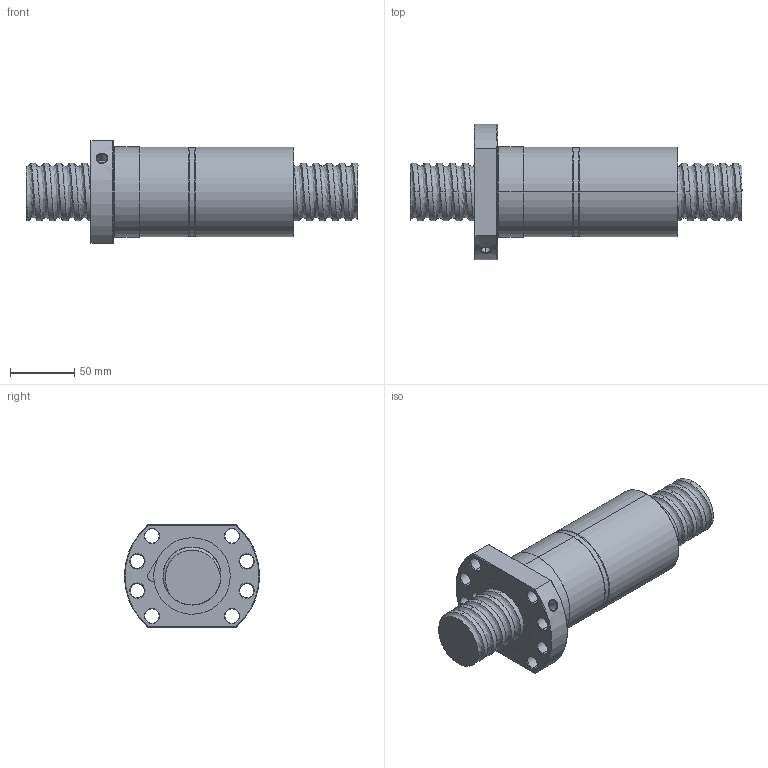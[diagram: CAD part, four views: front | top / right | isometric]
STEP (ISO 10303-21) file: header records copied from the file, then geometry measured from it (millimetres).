
FILE_DESCRIPTION (( 'STEP AP214' ), '1' );
FILE_NAME ('FDDC04510T5-F-C.STEP', '2010-07-07T02:12:18', ( 'XPAUTO' ), ( 'XPAUTO' ), 'SwSTEP 2.0', 'SolidWorks 2007', '' );
FILE_SCHEMA (( 'AUTOMOTIVE_DESIGN' ));
Length unit declared in the file: millimetre
Products named in the file (3): FDDC04510T5-F-C.sldasm-Part-1_預設; FDDC04510T5-F-C; FDDC04510T5-F-C.sldasm-Part-2_預設
Assembly tree (2 placements, depth 2):
  FDDC04510T5-F-C
    FDDC04510T5-F-C.sldasm-Part-2_預設
    FDDC04510T5-F-C.sldasm-Part-1_預設
Bounding box: 258 x 105 x 80 mm (x, y, z)
Volume: 773058.4 mm3; surface area: 121419.1 mm2
Topology: 2 solids, 2 shells, 167 faces, 419 edges, 261 vertices
Faces by surface type: cylinder 98, cone 32, plane 22, torus 10, bspline 5
Entity records: 47650 total; most frequent: CARTESIAN_POINT 43712, ORIENTED_EDGE 838, DIRECTION 755, EDGE_CURVE 419, AXIS2_PLACEMENT_3D 304, VERTEX_POINT 261, EDGE_LOOP 192, FACE_OUTER_BOUND 167
